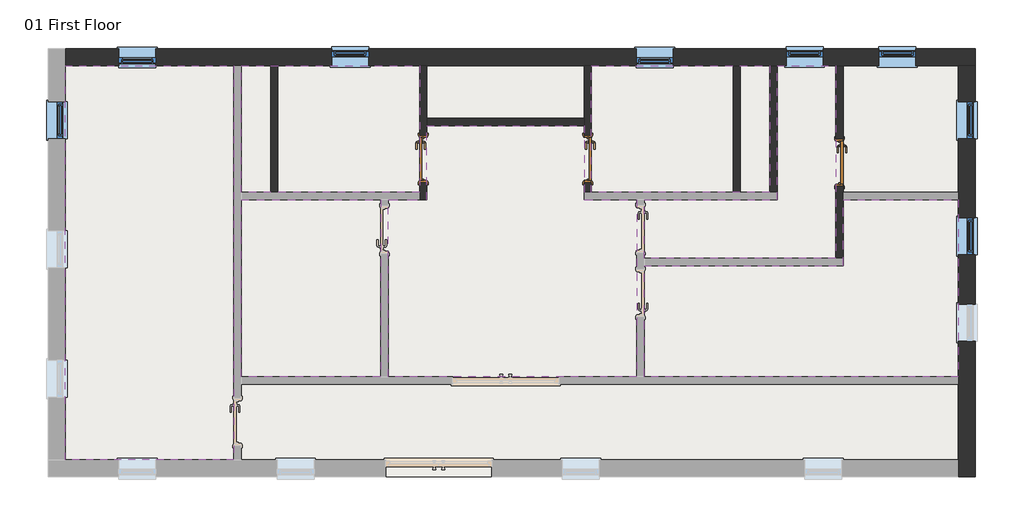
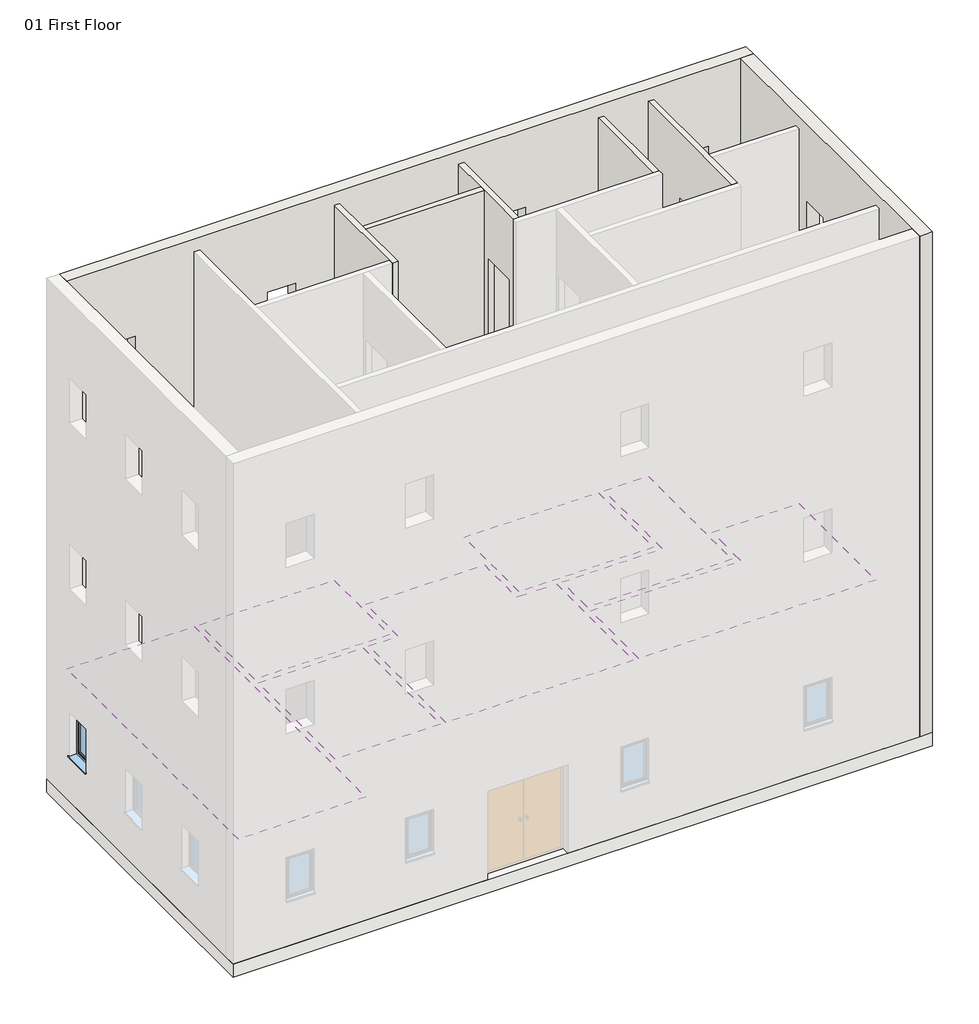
# One storey, part 2 of 2: 9 walls, 8 windows, 7 coverings, 3 doors, 1 slab.
"""IFC4 building model written with IfcOpenShell, lengths in millimetres."""

from ifc_helpers import new_model, si_unit, frame, origin, origin_with_axes, place, context, project, spatial, polyline, outline, extrude, faceted_brep, transform, mapped, element, save
from components import intsgl_1_810_x_2110mm_60c2a13c, intsgl_1_810_x_2110mm_5ef26f82, sgl_plain_630_x_1050mm_deep_554a1539

model = new_model("IFC4")

# Units and contexts
model_context = context("Model", 3, world=origin())
ifc_project = project(units=[si_unit("LENGTHUNIT", "METRE", prefix="MILLI")], contexts=[model_context])

# Site, building, storey
site = spatial("IfcSite", under=ifc_project)
building = spatial("IfcBuilding", under=site)
storey = spatial("IfcBuildingStorey", under=building, Name="01 First Floor", Elevation=0.0)

# Coverings
placement = place(None, origin())
element("IfcCovering", 1, ObjectType="600 x 600mm grid", at=placement, inside=storey, context=model_context, shape_type="SweptSolid", body=[
    extrude(outline(polyline([(-3433.0198612, 1889.6075821), (-3433.0198612, -4820.3924179), (-6308.0198612, -4820.3924179), (-6308.0198612, 1889.6075821), (-3433.0198612, 1889.6075821)])), frame((0.0, 0.0, 2700.0), z_axis=(0.0, 0.0, 1.0), x_axis=(1.0, 0.0, 0.0)), (0.0, 0.0, 1.0), 52.0),
])
element("IfcCovering", 2, ObjectType="600 x 600mm grid", at=placement, inside=storey, context=model_context, shape_type="SweptSolid", body=[
    extrude(outline(polyline([(-3308.0198612, 1889.6075821), (-270.5198612, 1889.6075821), (-270.5198612, -265.3924179), (-3308.0198612, -265.3924179), (-3308.0198612, 1889.6075821)])), frame((0.0, 0.0, 2700.0), z_axis=(0.0, 0.0, 1.0), x_axis=(1.0, 0.0, 0.0)), (0.0, 0.0, 1.0), 52.0),
])
element("IfcCovering", 3, ObjectType="600 x 600mm grid", at=placement, inside=storey, context=model_context, shape_type="SweptSolid", body=[
    extrude(outline(polyline([(-3308.0198612, -390.3924179), (-933.0198612, -390.3924179), (-933.0198612, -3407.8924179), (-3308.0198612, -3407.8924179), (-3308.0198612, -390.3924179)])), frame((0.0, 0.0, 2700.0), z_axis=(0.0, 0.0, 1.0), x_axis=(1.0, 0.0, 0.0)), (0.0, 0.0, 1.0), 52.0),
])
element("IfcCovering", 4, ObjectType="600 x 600mm grid", at=placement, inside=storey, context=model_context, shape_type="SweptSolid", body=[
    extrude(outline(polyline([(-808.0198612, -390.3924179), (-145.5198612, -390.3924179), (-145.5198612, 872.1075821), (2529.4801388, 872.1075821), (2529.4801388, -390.3924179), (3426.9801388, -390.3924179), (3426.9801388, -3407.8924179), (-808.0198612, -3407.8924179), (-808.0198612, -390.3924179)])), frame((0.0, 0.0, 2700.0), z_axis=(0.0, 0.0, 1.0), x_axis=(1.0, 0.0, 0.0)), (0.0, 0.0, 1.0), 52.0),
])
element("IfcCovering", 5, ObjectType="600 x 600mm grid", at=placement, inside=storey, context=model_context, shape_type="SweptSolid", body=[
    extrude(outline(polyline([(2654.4801388, 1889.6075821), (5691.9801388, 1889.6075821), (5691.9801388, -265.3924179), (2654.4801388, -265.3924179), (2654.4801388, 1889.6075821)])), frame((0.0, 0.0, 2700.0), z_axis=(0.0, 0.0, 1.0), x_axis=(1.0, 0.0, 0.0)), (0.0, 0.0, 1.0), 52.0),
])
element("IfcCovering", 6, ObjectType="600 x 600mm grid", at=placement, inside=storey, context=model_context, shape_type="SweptSolid", body=[
    extrude(outline(polyline([(5816.9801388, 1889.6075821), (6816.9801388, 1889.6075821), (6816.9801388, -1390.3924179), (3551.9801388, -1390.3924179), (3551.9801388, -390.3924179), (5816.9801388, -390.3924179), (5816.9801388, 1889.6075821)])), frame((0.0, 0.0, 2700.0), z_axis=(0.0, 0.0, 1.0), x_axis=(1.0, 0.0, 0.0)), (0.0, 0.0, 1.0), 52.0),
])
element("IfcCovering", 7, ObjectType="600 x 600mm grid", at=placement, inside=storey, context=model_context, shape_type="SweptSolid", body=[
    extrude(outline(polyline([(8901.9801388, -390.3924179), (8901.9801388, -3407.8924179), (3551.9801388, -3407.8924179), (3551.9801388, -1515.3924179), (6941.9801388, -1515.3924179), (6941.9801388, -390.3924179), (8901.9801388, -390.3924179)])), frame((0.0, 0.0, 2700.0), z_axis=(0.0, 0.0, 1.0), x_axis=(1.0, 0.0, 0.0)), (0.0, 0.0, 1.0), 52.0),
])

# Doors
intsgl_1_810_x_2110mm_shape = intsgl_1_810_x_2110mm_60c2a13c(model_context)
element("IfcDoor", 8, ObjectType="IntSgl (1) : 810 x 2110mm", at=placement, inside=storey, context=model_context, shape_type="MappedRepresentation", body=[
    mapped(intsgl_1_810_x_2110mm_shape, transform((2591.9801388, 303.3575821, 0.0), x_axis=(0.0, -1.0, 0.0), y_axis=(1.0, 0.0, 0.0), z_axis=(0.0, 0.0, 1.0))),
])
intsgl_1_810_x_2110mm_2_shape = intsgl_1_810_x_2110mm_5ef26f82(model_context)
element("IfcDoor", 9, ObjectType="IntSgl (1) : 810 x 2110mm", at=placement, inside=storey, context=model_context, shape_type="MappedRepresentation", body=[
    mapped(intsgl_1_810_x_2110mm_2_shape, transform((-208.0198612, 303.3575821, 0.0), x_axis=(0.0, -1.0, 0.0), y_axis=(1.0, 0.0, 0.0), z_axis=(0.0, 0.0, 1.0))),
])
element("IfcDoor", 10, ObjectType="IntSgl (1) : 810 x 2110mm", at=placement, inside=storey, context=model_context, shape_type="MappedRepresentation", body=[
    mapped(intsgl_1_810_x_2110mm_shape, transform((6879.4801388, 239.6075821, 0.0), x_axis=(0.0, -1.0, 0.0), y_axis=(1.0, 0.0, 0.0), z_axis=(0.0, 0.0, 1.0))),
])

# Slab
element("IfcSlab", 11, ObjectType="Beam and Block 225mm Susp Ground", at=placement, inside=storey, context=model_context, shape_type="SweptSolid", body=[
    extrude(outline(polyline([(9191.9801388, 2179.6075821), (9191.9801388, -5110.3924179), (-6598.0198612, -5110.3924179), (-6598.0198612, 2179.6075821), (9191.9801388, 2179.6075821)])), frame((0.0, 0.0, -320.0), z_axis=(0.0, 0.0, 1.0), x_axis=(1.0, 0.0, 0.0)), (0.0, 0.0, 1.0), 320.0),
])

# Walls
element("IfcWall", 12, ObjectType="Cav - 102 75i 100 p - Lwt", at=placement, inside=storey, context=model_context, shape_type="Brep", body=[
    faceted_brep([(9191.9801388, 2179.6075821, 0.0), (-6308.0198612, 2179.6075821, 0.0), (-6308.0198612, 2179.6075821, 11938.0), (9191.9801388, 2179.6075821, 11938.0), (-4763.6198612, 2179.6075821, 2110.0), (-5393.6198612, 2179.6075821, 2110.0), (-5393.6198612, 2179.6075821, 1060.0), (-4763.6198612, 2179.6075821, 1060.0), (-1768.6198612, 2179.6075821, 2110.0), (-1768.6198612, 2179.6075821, 1060.0), (-1138.6198612, 2179.6075821, 1060.0), (-1138.6198612, 2179.6075821, 2110.0), (4046.4801388, 2179.6075821, 2110.0), (3416.4801388, 2179.6075821, 2110.0), (3416.4801388, 2179.6075821, 1060.0), (4046.4801388, 2179.6075821, 1060.0), (5969.3801388, 2179.6075821, 2110.0), (5969.3801388, 2179.6075821, 1060.0), (6599.3801388, 2179.6075821, 1060.0), (6599.3801388, 2179.6075821, 2110.0), (7551.5801388, 2179.6075821, 2110.0), (7551.5801388, 2179.6075821, 1060.0), (8181.5801388, 2179.6075821, 1060.0), (8181.5801388, 2179.6075821, 2110.0), (7551.5801388, 2179.6075821, 6123.2), (7551.5801388, 2179.6075821, 5073.2), (8181.5801388, 2179.6075821, 5073.2), (8181.5801388, 2179.6075821, 6123.2), (5969.3801388, 2179.6075821, 6123.2), (5969.3801388, 2179.6075821, 5073.2), (6599.3801388, 2179.6075821, 5073.2), (6599.3801388, 2179.6075821, 6123.2), (4046.4801388, 2179.6075821, 6123.2), (3416.4801388, 2179.6075821, 6123.2), (3416.4801388, 2179.6075821, 5073.2), (4046.4801388, 2179.6075821, 5073.2), (-1768.6198612, 2179.6075821, 6123.2), (-1768.6198612, 2179.6075821, 5073.2), (-1138.6198612, 2179.6075821, 5073.2), (-1138.6198612, 2179.6075821, 6123.2), (-4763.6198612, 2179.6075821, 6123.2), (-5393.6198612, 2179.6075821, 6123.2), (-5393.6198612, 2179.6075821, 5073.2), (-4763.6198612, 2179.6075821, 5073.2), (7551.5801388, 2179.6075821, 10085.6), (7551.5801388, 2179.6075821, 9035.6), (8181.5801388, 2179.6075821, 9035.6), (8181.5801388, 2179.6075821, 10085.6), (5969.3801388, 2179.6075821, 10085.6), (5969.3801388, 2179.6075821, 9035.6), (6599.3801388, 2179.6075821, 9035.6), (6599.3801388, 2179.6075821, 10085.6), (4046.4801388, 2179.6075821, 10085.6), (3416.4801388, 2179.6075821, 10085.6), (3416.4801388, 2179.6075821, 9035.6), (4046.4801388, 2179.6075821, 9035.6), (-1768.6198612, 2179.6075821, 10085.6), (-1768.6198612, 2179.6075821, 9035.6), (-1138.6198612, 2179.6075821, 9035.6), (-1138.6198612, 2179.6075821, 10085.6), (-4763.6198612, 2179.6075821, 10085.6), (-5393.6198612, 2179.6075821, 10085.6), (-5393.6198612, 2179.6075821, 9035.6), (-4763.6198612, 2179.6075821, 9035.6), (9191.9801388, 1889.6075821, 0.0), (9191.9801388, 1889.6075821, 11938.0), (8901.9801388, 1889.6075821, 11938.0), (-6308.0198612, 1889.6075821, 11938.0), (-6308.0198612, 1889.6075821, 0.0), (-3433.0198612, 1889.6075821, 0.0), (-3308.0198612, 1889.6075821, 0.0), (-2808.0198612, 1889.6075821, 0.0), (-2683.0198612, 1889.6075821, 0.0), (-270.5198612, 1889.6075821, 0.0), (-145.5198612, 1889.6075821, 0.0), (2529.4801388, 1889.6075821, 0.0), (2654.4801388, 1889.6075821, 0.0), (5066.9801388, 1889.6075821, 0.0), (5191.9801388, 1889.6075821, 0.0), (5691.9801388, 1889.6075821, 0.0), (5816.9801388, 1889.6075821, 0.0), (6816.9801388, 1889.6075821, 0.0), (6941.9801388, 1889.6075821, 0.0), (8901.9801388, 1889.6075821, 0.0), (-4763.6198612, 1889.6075821, 2110.0), (-4763.6198612, 1889.6075821, 1060.0), (-5393.6198612, 1889.6075821, 1060.0), (-5393.6198612, 1889.6075821, 2110.0), (-1768.6198612, 1889.6075821, 2110.0), (-1138.6198612, 1889.6075821, 2110.0), (-1138.6198612, 1889.6075821, 1060.0), (-1768.6198612, 1889.6075821, 1060.0), (4046.4801388, 1889.6075821, 2110.0), (4046.4801388, 1889.6075821, 1060.0), (3416.4801388, 1889.6075821, 1060.0), (3416.4801388, 1889.6075821, 2110.0), (5969.3801388, 1889.6075821, 2110.0), (6599.3801388, 1889.6075821, 2110.0), (6599.3801388, 1889.6075821, 1060.0), (5969.3801388, 1889.6075821, 1060.0), (7551.5801388, 1889.6075821, 2110.0), (8181.5801388, 1889.6075821, 2110.0), (8181.5801388, 1889.6075821, 1060.0), (7551.5801388, 1889.6075821, 1060.0), (7551.5801388, 1889.6075821, 6123.2), (8181.5801388, 1889.6075821, 6123.2), (8181.5801388, 1889.6075821, 5073.2), (7551.5801388, 1889.6075821, 5073.2), (5969.3801388, 1889.6075821, 6123.2), (6599.3801388, 1889.6075821, 6123.2), (6599.3801388, 1889.6075821, 5073.2), (5969.3801388, 1889.6075821, 5073.2), (4046.4801388, 1889.6075821, 6123.2), (4046.4801388, 1889.6075821, 5073.2), (3416.4801388, 1889.6075821, 5073.2), (3416.4801388, 1889.6075821, 6123.2), (-1768.6198612, 1889.6075821, 6123.2), (-1138.6198612, 1889.6075821, 6123.2), (-1138.6198612, 1889.6075821, 5073.2), (-1768.6198612, 1889.6075821, 5073.2), (-4763.6198612, 1889.6075821, 6123.2), (-4763.6198612, 1889.6075821, 5073.2), (-5393.6198612, 1889.6075821, 5073.2), (-5393.6198612, 1889.6075821, 6123.2), (7551.5801388, 1889.6075821, 10085.6), (8181.5801388, 1889.6075821, 10085.6), (8181.5801388, 1889.6075821, 9035.6), (7551.5801388, 1889.6075821, 9035.6), (5969.3801388, 1889.6075821, 10085.6), (6599.3801388, 1889.6075821, 10085.6), (6599.3801388, 1889.6075821, 9035.6), (5969.3801388, 1889.6075821, 9035.6), (4046.4801388, 1889.6075821, 10085.6), (4046.4801388, 1889.6075821, 9035.6), (3416.4801388, 1889.6075821, 9035.6), (3416.4801388, 1889.6075821, 10085.6), (-1768.6198612, 1889.6075821, 10085.6), (-1138.6198612, 1889.6075821, 10085.6), (-1138.6198612, 1889.6075821, 9035.6), (-1768.6198612, 1889.6075821, 9035.6), (-4763.6198612, 1889.6075821, 10085.6), (-4763.6198612, 1889.6075821, 9035.6), (-5393.6198612, 1889.6075821, 9035.6), (-5393.6198612, 1889.6075821, 10085.6)], [[[0, 1, 2, 3], [4, 5, 6, 7], [8, 9, 10, 11], [12, 13, 14, 15], [16, 17, 18, 19], [20, 21, 22, 23], [24, 25, 26, 27], [28, 29, 30, 31], [32, 33, 34, 35], [36, 37, 38, 39], [40, 41, 42, 43], [44, 45, 46, 47], [48, 49, 50, 51], [52, 53, 54, 55], [56, 57, 58, 59], [60, 61, 62, 63]], [[64, 65, 66, 67, 68, 69, 70, 71, 72, 73, 74, 75, 76, 77, 78, 79, 80, 81, 82, 83], [84, 85, 86, 87], [88, 89, 90, 91], [92, 93, 94, 95], [96, 97, 98, 99], [100, 101, 102, 103], [104, 105, 106, 107], [108, 109, 110, 111], [112, 113, 114, 115], [116, 117, 118, 119], [120, 121, 122, 123], [124, 125, 126, 127], [128, 129, 130, 131], [132, 133, 134, 135], [136, 137, 138, 139], [140, 141, 142, 143]], [[1, 0, 64, 83, 82, 81, 80, 79, 78, 77, 76, 75, 74, 73, 72, 71, 70, 69, 68]], [[3, 2, 67, 66, 65]], [[0, 3, 65, 64]], [[2, 1, 68, 67]], [[85, 84, 4, 7]], [[86, 85, 7, 6]], [[87, 86, 6, 5]], [[84, 87, 5, 4]], [[9, 8, 88, 91]], [[10, 9, 91, 90]], [[11, 10, 90, 89]], [[8, 11, 89, 88]], [[93, 92, 12, 15]], [[94, 93, 15, 14]], [[95, 94, 14, 13]], [[92, 95, 13, 12]], [[17, 16, 96, 99]], [[18, 17, 99, 98]], [[19, 18, 98, 97]], [[16, 19, 97, 96]], [[21, 20, 100, 103]], [[22, 21, 103, 102]], [[23, 22, 102, 101]], [[20, 23, 101, 100]], [[25, 24, 104, 107]], [[26, 25, 107, 106]], [[27, 26, 106, 105]], [[24, 27, 105, 104]], [[29, 28, 108, 111]], [[30, 29, 111, 110]], [[31, 30, 110, 109]], [[28, 31, 109, 108]], [[113, 112, 32, 35]], [[114, 113, 35, 34]], [[115, 114, 34, 33]], [[112, 115, 33, 32]], [[37, 36, 116, 119]], [[38, 37, 119, 118]], [[39, 38, 118, 117]], [[36, 39, 117, 116]], [[121, 120, 40, 43]], [[122, 121, 43, 42]], [[123, 122, 42, 41]], [[120, 123, 41, 40]], [[45, 44, 124, 127]], [[46, 45, 127, 126]], [[47, 46, 126, 125]], [[44, 47, 125, 124]], [[49, 48, 128, 131]], [[50, 49, 131, 130]], [[51, 50, 130, 129]], [[48, 51, 129, 128]], [[133, 132, 52, 55]], [[134, 133, 55, 54]], [[135, 134, 54, 53]], [[132, 135, 53, 52]], [[57, 56, 136, 139]], [[58, 57, 139, 138]], [[59, 58, 138, 137]], [[56, 59, 137, 136]], [[141, 140, 60, 63]], [[142, 141, 63, 62]], [[143, 142, 62, 61]], [[140, 143, 61, 60]]]),
])
element("IfcWall", 13, ObjectType="Cav - 102 75i 100 p - Lwt", at=placement, inside=storey, context=model_context, shape_type="Brep", body=[
    faceted_brep([(9191.9801388, -5110.3924179, 0.0), (9191.9801388, 1889.6075821, 0.0), (9191.9801388, 1889.6075821, 11938.0), (9191.9801388, -5110.3924179, 11938.0), (9191.9801388, 1280.0075821, 2110.0), (9191.9801388, 1280.0075821, 1060.0), (9191.9801388, 650.0075821, 1060.0), (9191.9801388, 650.0075821, 2110.0), (9191.9801388, -695.1924179, 2110.0), (9191.9801388, -695.1924179, 1060.0), (9191.9801388, -1325.1924179, 1060.0), (9191.9801388, -1325.1924179, 2110.0), (9191.9801388, -2168.2924179, 2110.0), (9191.9801388, -2168.2924179, 1060.0), (9191.9801388, -2798.2924179, 1060.0), (9191.9801388, -2798.2924179, 2110.0), (9191.9801388, -2168.2924179, 6123.2), (9191.9801388, -2168.2924179, 5073.2), (9191.9801388, -2798.2924179, 5073.2), (9191.9801388, -2798.2924179, 6123.2), (9191.9801388, -695.1924179, 6123.2), (9191.9801388, -695.1924179, 5073.2), (9191.9801388, -1325.1924179, 5073.2), (9191.9801388, -1325.1924179, 6123.2), (9191.9801388, 1280.0075821, 6123.2), (9191.9801388, 1280.0075821, 5073.2), (9191.9801388, 650.0075821, 5073.2), (9191.9801388, 650.0075821, 6123.2), (9191.9801388, -2168.2924179, 10085.6), (9191.9801388, -2168.2924179, 9035.6), (9191.9801388, -2798.2924179, 9035.6), (9191.9801388, -2798.2924179, 10085.6), (9191.9801388, -695.1924179, 10085.6), (9191.9801388, -695.1924179, 9035.6), (9191.9801388, -1325.1924179, 9035.6), (9191.9801388, -1325.1924179, 10085.6), (9191.9801388, 1280.0075821, 10085.6), (9191.9801388, 1280.0075821, 9035.6), (9191.9801388, 650.0075821, 9035.6), (9191.9801388, 650.0075821, 10085.6), (8901.9801388, -5110.3924179, 0.0), (8901.9801388, -5110.3924179, 11938.0), (8901.9801388, -4820.3924179, 11938.0), (8901.9801388, 1889.6075821, 11938.0), (8901.9801388, 1889.6075821, 0.0), (8901.9801388, -265.3924179, 0.0), (8901.9801388, -390.3924179, 0.0), (8901.9801388, -3407.8924179, 0.0), (8901.9801388, -3532.8924179, 0.0), (8901.9801388, -4820.3924179, 0.0), (8901.9801388, 1280.0075821, 2110.0), (8901.9801388, 650.0075821, 2110.0), (8901.9801388, 650.0075821, 1060.0), (8901.9801388, 1280.0075821, 1060.0), (8901.9801388, -695.1924179, 2110.0), (8901.9801388, -1325.1924179, 2110.0), (8901.9801388, -1325.1924179, 1060.0), (8901.9801388, -695.1924179, 1060.0), (8901.9801388, -2168.2924179, 2110.0), (8901.9801388, -2798.2924179, 2110.0), (8901.9801388, -2798.2924179, 1060.0), (8901.9801388, -2168.2924179, 1060.0), (8901.9801388, -2168.2924179, 6123.2), (8901.9801388, -2798.2924179, 6123.2), (8901.9801388, -2798.2924179, 5073.2), (8901.9801388, -2168.2924179, 5073.2), (8901.9801388, -695.1924179, 6123.2), (8901.9801388, -1325.1924179, 6123.2), (8901.9801388, -1325.1924179, 5073.2), (8901.9801388, -695.1924179, 5073.2), (8901.9801388, 1280.0075821, 6123.2), (8901.9801388, 650.0075821, 6123.2), (8901.9801388, 650.0075821, 5073.2), (8901.9801388, 1280.0075821, 5073.2), (8901.9801388, -2168.2924179, 10085.6), (8901.9801388, -2798.2924179, 10085.6), (8901.9801388, -2798.2924179, 9035.6), (8901.9801388, -2168.2924179, 9035.6), (8901.9801388, -695.1924179, 10085.6), (8901.9801388, -1325.1924179, 10085.6), (8901.9801388, -1325.1924179, 9035.6), (8901.9801388, -695.1924179, 9035.6), (8901.9801388, 1280.0075821, 10085.6), (8901.9801388, 650.0075821, 10085.6), (8901.9801388, 650.0075821, 9035.6), (8901.9801388, 1280.0075821, 9035.6)], [[[0, 1, 2, 3], [4, 5, 6, 7], [8, 9, 10, 11], [12, 13, 14, 15], [16, 17, 18, 19], [20, 21, 22, 23], [24, 25, 26, 27], [28, 29, 30, 31], [32, 33, 34, 35], [36, 37, 38, 39]], [[40, 41, 42, 43, 44, 45, 46, 47, 48, 49], [50, 51, 52, 53], [54, 55, 56, 57], [58, 59, 60, 61], [62, 63, 64, 65], [66, 67, 68, 69], [70, 71, 72, 73], [74, 75, 76, 77], [78, 79, 80, 81], [82, 83, 84, 85]], [[1, 0, 40, 49, 48, 47, 46, 45, 44]], [[3, 2, 43, 42, 41]], [[0, 3, 41, 40]], [[2, 1, 44, 43]], [[5, 4, 50, 53]], [[6, 5, 53, 52]], [[7, 6, 52, 51]], [[4, 7, 51, 50]], [[9, 8, 54, 57]], [[10, 9, 57, 56]], [[11, 10, 56, 55]], [[8, 11, 55, 54]], [[13, 12, 58, 61]], [[14, 13, 61, 60]], [[15, 14, 60, 59]], [[12, 15, 59, 58]], [[17, 16, 62, 65]], [[18, 17, 65, 64]], [[19, 18, 64, 63]], [[16, 19, 63, 62]], [[21, 20, 66, 69]], [[22, 21, 69, 68]], [[23, 22, 68, 67]], [[20, 23, 67, 66]], [[25, 24, 70, 73]], [[26, 25, 73, 72]], [[27, 26, 72, 71]], [[24, 27, 71, 70]], [[29, 28, 74, 77]], [[30, 29, 77, 76]], [[31, 30, 76, 75]], [[28, 31, 75, 74]], [[33, 32, 78, 81]], [[34, 33, 81, 80]], [[35, 34, 80, 79]], [[32, 35, 79, 78]], [[37, 36, 82, 85]], [[38, 37, 85, 84]], [[39, 38, 84, 83]], [[36, 39, 83, 82]]]),
])
element("IfcWall", 14, ObjectType="Partn - p 100 p - Block", at=placement, inside=storey, context=model_context, shape_type="Brep", body=[
    faceted_brep([(-270.5198612, -390.3924179, 11638.0), (-270.5198612, -265.3924179, 11638.0), (-270.5198612, 1889.6075821, 11638.0), (-270.5198612, 1889.6075821, 0.0), (-270.5198612, 708.3575821, 0.0), (-270.5198612, 708.3575821, 2110.0), (-270.5198612, -101.6424179, 2110.0), (-270.5198612, -101.6424179, 0.0), (-270.5198612, -265.3924179, 0.0), (-270.5198612, -390.3924179, 0.0), (-270.5198612, -101.6424179, 4013.2), (-270.5198612, 708.3575821, 4013.2), (-270.5198612, 708.3575821, 6123.2), (-270.5198612, -101.6424179, 6123.2), (-270.5198612, -101.6424179, 7975.6), (-270.5198612, 708.3575821, 7975.6), (-270.5198612, 708.3575821, 10085.6), (-270.5198612, -101.6424179, 10085.6), (-145.5198612, 1889.6075821, 11638.0), (-145.5198612, 997.1075821, 11638.0), (-145.5198612, 872.1075821, 11638.0), (-145.5198612, -390.3924179, 11638.0), (-145.5198612, -390.3924179, 0.0), (-145.5198612, -101.6424179, 0.0), (-145.5198612, -101.6424179, 2110.0), (-145.5198612, 708.3575821, 2110.0), (-145.5198612, 708.3575821, 0.0), (-145.5198612, 872.1075821, 0.0), (-145.5198612, 997.1075821, 0.0), (-145.5198612, 1889.6075821, 0.0), (-145.5198612, -101.6424179, 4013.2), (-145.5198612, -101.6424179, 6123.2), (-145.5198612, 708.3575821, 6123.2), (-145.5198612, 708.3575821, 4013.2), (-145.5198612, -101.6424179, 7975.6), (-145.5198612, -101.6424179, 10085.6), (-145.5198612, 708.3575821, 10085.6), (-145.5198612, 708.3575821, 7975.6)], [[[0, 1, 2, 3, 4, 5, 6, 7, 8, 9], [10, 11, 12, 13], [14, 15, 16, 17]], [[18, 19, 20, 21, 22, 23, 24, 25, 26, 27, 28, 29], [30, 31, 32, 33], [34, 35, 36, 37]], [[3, 29, 28, 27, 26, 4]], [[22, 9, 8, 7, 23]], [[2, 1, 0, 21, 20, 19, 18]], [[3, 2, 18, 29]], [[0, 9, 22, 21]], [[6, 24, 23, 7]], [[24, 6, 5, 25]], [[25, 5, 4, 26]], [[31, 30, 10, 13]], [[32, 31, 13, 12]], [[33, 32, 12, 11]], [[30, 33, 11, 10]], [[35, 34, 14, 17]], [[36, 35, 17, 16]], [[37, 36, 16, 15]], [[34, 37, 15, 14]]]),
])
element("IfcWall", 15, ObjectType="Partn - p 100 p - Block", at=placement, inside=storey, context=model_context, shape_type="SweptSolid", body=[
    extrude(outline(polyline([(2529.4801388, 872.1075821), (-145.5198612, 872.1075821), (-145.5198612, 997.1075821), (2529.4801388, 997.1075821), (2529.4801388, 872.1075821)])), origin_with_axes(), (0.0, 0.0, 1.0), 11638.0),
])
element("IfcWall", 16, ObjectType="Partn - p 100 p - Block", at=placement, inside=storey, context=model_context, shape_type="Brep", body=[
    faceted_brep([(2654.4801388, 1889.6075821, 11638.0), (2654.4801388, -265.3924179, 11638.0), (2654.4801388, -265.3924179, 0.0), (2654.4801388, -101.6424179, 0.0), (2654.4801388, -101.6424179, 2110.0), (2654.4801388, 708.3575821, 2110.0), (2654.4801388, 708.3575821, 0.0), (2654.4801388, 1889.6075821, 0.0), (2654.4801388, -101.6424179, 4013.2), (2654.4801388, -101.6424179, 6123.2), (2654.4801388, 708.3575821, 6123.2), (2654.4801388, 708.3575821, 4013.2), (2654.4801388, -101.6424179, 7975.6), (2654.4801388, -101.6424179, 10085.6), (2654.4801388, 708.3575821, 10085.6), (2654.4801388, 708.3575821, 7975.6), (2529.4801388, -265.3924179, 11638.0), (2529.4801388, 872.1075821, 11638.0), (2529.4801388, 997.1075821, 11638.0), (2529.4801388, 1889.6075821, 11638.0), (2529.4801388, 1889.6075821, 0.0), (2529.4801388, 997.1075821, 0.0), (2529.4801388, 872.1075821, 0.0), (2529.4801388, 708.3575821, 0.0), (2529.4801388, 708.3575821, 2110.0), (2529.4801388, -101.6424179, 2110.0), (2529.4801388, -101.6424179, 0.0), (2529.4801388, -265.3924179, 0.0), (2529.4801388, -101.6424179, 4013.2), (2529.4801388, 708.3575821, 4013.2), (2529.4801388, 708.3575821, 6123.2), (2529.4801388, -101.6424179, 6123.2), (2529.4801388, -101.6424179, 7975.6), (2529.4801388, 708.3575821, 7975.6), (2529.4801388, 708.3575821, 10085.6), (2529.4801388, -101.6424179, 10085.6)], [[[0, 1, 2, 3, 4, 5, 6, 7], [8, 9, 10, 11], [12, 13, 14, 15]], [[16, 17, 18, 19, 20, 21, 22, 23, 24, 25, 26, 27], [28, 29, 30, 31], [32, 33, 34, 35]], [[20, 7, 6, 23, 22, 21]], [[2, 27, 26, 3]], [[1, 0, 19, 18, 17, 16]], [[0, 7, 20, 19]], [[2, 1, 16, 27]], [[25, 4, 3, 26]], [[4, 25, 24, 5]], [[5, 24, 23, 6]], [[9, 8, 28, 31]], [[10, 9, 31, 30]], [[11, 10, 30, 29]], [[8, 11, 29, 28]], [[13, 12, 32, 35]], [[14, 13, 35, 34]], [[15, 14, 34, 33]], [[12, 15, 33, 32]]]),
])
element("IfcWall", 17, ObjectType="Partn - p 100 p - Block", at=placement, inside=storey, context=model_context, shape_type="SweptSolid", body=[
    extrude(outline(polyline([(5816.9801388, 1889.6075821), (5816.9801388, -265.3924179), (5691.9801388, -265.3924179), (5691.9801388, 1889.6075821), (5816.9801388, 1889.6075821)])), origin_with_axes(), (0.0, 0.0, 1.0), 11638.0),
])
element("IfcWall", 18, ObjectType="Partn - p 100 p - Block", at=placement, inside=storey, context=model_context, shape_type="Brep", body=[
    faceted_brep([(6816.9801388, -1390.3924179, 11638.0), (6816.9801388, 1889.6075821, 11638.0), (6816.9801388, 1889.6075821, 0.0), (6816.9801388, 644.6075821, 0.0), (6816.9801388, 644.6075821, 2110.0), (6816.9801388, -165.3924179, 2110.0), (6816.9801388, -165.3924179, 0.0), (6816.9801388, -1390.3924179, 0.0), (6816.9801388, -165.3924179, 4013.2), (6816.9801388, 644.6075821, 4013.2), (6816.9801388, 644.6075821, 6123.2), (6816.9801388, -165.3924179, 6123.2), (6816.9801388, -165.3924179, 7975.6), (6816.9801388, 644.6075821, 7975.6), (6816.9801388, 644.6075821, 10085.6), (6816.9801388, -165.3924179, 10085.6), (6941.9801388, 1889.6075821, 11638.0), (6941.9801388, -265.3924179, 11638.0), (6941.9801388, -390.3924179, 11638.0), (6941.9801388, -1390.3924179, 11638.0), (6941.9801388, -1390.3924179, 0.0), (6941.9801388, -390.3924179, 0.0), (6941.9801388, -265.3924179, 0.0), (6941.9801388, -165.3924179, 0.0), (6941.9801388, -165.3924179, 2110.0), (6941.9801388, 644.6075821, 2110.0), (6941.9801388, 644.6075821, 0.0), (6941.9801388, 1889.6075821, 0.0), (6941.9801388, -165.3924179, 4013.2), (6941.9801388, -165.3924179, 6123.2), (6941.9801388, 644.6075821, 6123.2), (6941.9801388, 644.6075821, 4013.2), (6941.9801388, -165.3924179, 7975.6), (6941.9801388, -165.3924179, 10085.6), (6941.9801388, 644.6075821, 10085.6), (6941.9801388, 644.6075821, 7975.6)], [[[0, 1, 2, 3, 4, 5, 6, 7], [8, 9, 10, 11], [12, 13, 14, 15]], [[16, 17, 18, 19, 20, 21, 22, 23, 24, 25, 26, 27], [28, 29, 30, 31], [32, 33, 34, 35]], [[2, 27, 26, 3]], [[20, 7, 6, 23, 22, 21]], [[1, 0, 19, 18, 17, 16]], [[2, 1, 16, 27]], [[0, 7, 20, 19]], [[5, 24, 23, 6]], [[24, 5, 4, 25]], [[25, 4, 3, 26]], [[29, 28, 8, 11]], [[30, 29, 11, 10]], [[31, 30, 10, 9]], [[28, 31, 9, 8]], [[33, 32, 12, 15]], [[34, 33, 15, 14]], [[35, 34, 14, 13]], [[32, 35, 13, 12]]]),
])
element("IfcWall", 19, ObjectType="Partn - p 100 p - Block", at=placement, inside=storey, context=model_context, shape_type="SweptSolid", body=[
    extrude(outline(polyline([(5066.9801388, -265.3924179), (5066.9801388, 1889.6075821), (5191.9801388, 1889.6075821), (5191.9801388, -265.3924179), (5066.9801388, -265.3924179)])), origin_with_axes(), (0.0, 0.0, 1.0), 2700.0),
])
element("IfcWall", 20, ObjectType="Partn - p 100 p - Block", at=placement, inside=storey, context=model_context, shape_type="SweptSolid", body=[
    extrude(outline(polyline([(-2683.0198612, 1889.6075821), (-2683.0198612, -265.3924179), (-2808.0198612, -265.3924179), (-2808.0198612, 1889.6075821), (-2683.0198612, 1889.6075821)])), origin_with_axes(), (0.0, 0.0, 1.0), 2700.0),
])

# Windows
sgl_plain_630_x_1050mm_deep_shape = sgl_plain_630_x_1050mm_deep_554a1539(model_context)
element("IfcWindow", 21, ObjectType="Sgl Plain : 630 x 1050mm Deep", at=placement, inside=storey, context=model_context, shape_type="MappedRepresentation", body=[
    mapped(sgl_plain_630_x_1050mm_deep_shape, transform((-1453.6198612, 2026.1510143, 0.0), x_axis=(1.0, 0.0, 0.0), y_axis=(0.0, 1.0, 0.0), z_axis=(0.0, 0.0, 1.0))),
])
element("IfcWindow", 22, ObjectType="Sgl Plain : 630 x 1050mm Deep", at=placement, inside=storey, context=model_context, shape_type="MappedRepresentation", body=[
    mapped(sgl_plain_630_x_1050mm_deep_shape, transform((6284.3801388, 2026.1510143, 0.0), x_axis=(1.0, 0.0, 0.0), y_axis=(0.0, 1.0, 0.0), z_axis=(0.0, 0.0, 1.0))),
])
element("IfcWindow", 23, ObjectType="Sgl Plain : 630 x 1050mm Deep", at=placement, inside=storey, context=model_context, shape_type="MappedRepresentation", body=[
    mapped(sgl_plain_630_x_1050mm_deep_shape, transform((7866.5801388, 2026.1510143, 0.0), x_axis=(1.0, 0.0, 0.0), y_axis=(0.0, 1.0, 0.0), z_axis=(0.0, 0.0, 1.0))),
])
element("IfcWindow", 24, ObjectType="Sgl Plain : 630 x 1050mm Deep", at=placement, inside=storey, context=model_context, shape_type="MappedRepresentation", body=[
    mapped(sgl_plain_630_x_1050mm_deep_shape, transform((9038.523571, 965.0075821, 0.0), x_axis=(0.0, -1.0, 0.0), y_axis=(1.0, 0.0, 0.0), z_axis=(0.0, 0.0, 1.0))),
])
element("IfcWindow", 25, ObjectType="Sgl Plain : 630 x 1050mm Deep", at=placement, inside=storey, context=model_context, shape_type="MappedRepresentation", body=[
    mapped(sgl_plain_630_x_1050mm_deep_shape, transform((9038.523571, -1010.1924179, 0.0), x_axis=(0.0, -1.0, 0.0), y_axis=(1.0, 0.0, 0.0), z_axis=(0.0, 0.0, 1.0))),
])
element("IfcWindow", 26, ObjectType="Sgl Plain : 630 x 1050mm Deep", at=placement, inside=storey, context=model_context, shape_type="MappedRepresentation", body=[
    mapped(sgl_plain_630_x_1050mm_deep_shape, transform((-6461.476429, 965.0075821, 0.0), x_axis=(0.0, -1.0, 0.0), y_axis=(1.0, 0.0, 0.0), z_axis=(0.0, 0.0, 1.0))),
])
element("IfcWindow", 27, ObjectType="Sgl Plain : 630 x 1050mm Deep", at=placement, inside=storey, context=model_context, shape_type="MappedRepresentation", body=[
    mapped(sgl_plain_630_x_1050mm_deep_shape, transform((-5078.6198612, 2043.0641499, 0.0), x_axis=(-1.0, 0.0, 0.0), y_axis=(0.0, -1.0, 0.0), z_axis=(0.0, 0.0, 1.0))),
])
element("IfcWindow", 28, ObjectType="Sgl Plain : 630 x 1050mm Deep", at=placement, inside=storey, context=model_context, shape_type="MappedRepresentation", body=[
    mapped(sgl_plain_630_x_1050mm_deep_shape, transform((3731.4801388, 2043.0641499, 0.0), x_axis=(-1.0, 0.0, 0.0), y_axis=(0.0, -1.0, 0.0), z_axis=(0.0, 0.0, 1.0))),
])

save(model, "model.ifc")
